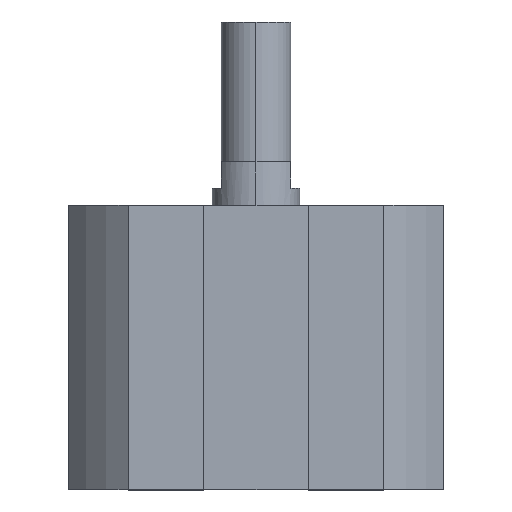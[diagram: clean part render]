
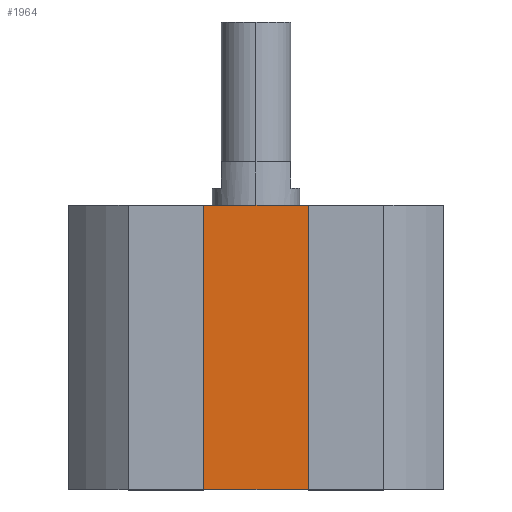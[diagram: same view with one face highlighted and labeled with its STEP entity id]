
A CAD part, top view. The second image highlights one B-rep face of the part: STEP entity #1964.
In plain terms, the highlighted planar face has unit normal (0, 0, 1).
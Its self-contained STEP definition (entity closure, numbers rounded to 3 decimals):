
#38 = PLANE ( 'NONE',  #1638 ) ;
#75 = EDGE_CURVE ( 'NONE', #1057, #2647, #2018, .T. ) ;
#123 = ORIENTED_EDGE ( 'NONE', *, *, #75, .T. ) ;
#248 = ORIENTED_EDGE ( 'NONE', *, *, #639, .F. ) ;
#273 = EDGE_CURVE ( 'NONE', #2647, #885, #514, .T. ) ;
#284 = CARTESIAN_POINT ( 'NONE',  ( 7.7, 0., 14. ) ) ;
#310 = VECTOR ( 'NONE', #1904, 1000. ) ;
#313 = DIRECTION ( 'NONE',  ( 0., 1., 0. ) ) ;
#353 = ORIENTED_EDGE ( 'NONE', *, *, #273, .T. ) ;
#514 = LINE ( 'NONE', #2369, #2016 ) ;
#639 = EDGE_CURVE ( 'NONE', #1483, #885, #2366, .T. ) ;
#649 = CARTESIAN_POINT ( 'NONE',  ( -7.7, 0., 14. ) ) ;
#659 = DIRECTION ( 'NONE',  ( 1., 0., 0. ) ) ;
#674 = DIRECTION ( 'NONE',  ( 0., 0., 1. ) ) ;
#696 = LINE ( 'NONE', #2437, #2517 ) ;
#875 = CARTESIAN_POINT ( 'NONE',  ( 0., 0., 14. ) ) ;
#885 = VERTEX_POINT ( 'NONE', #284 ) ;
#984 = CARTESIAN_POINT ( 'NONE',  ( -7.7, -32.5, 14. ) ) ;
#1008 = CARTESIAN_POINT ( 'NONE',  ( 7.7, -32.5, 14. ) ) ;
#1028 = FACE_OUTER_BOUND ( 'NONE', #2208, .T. ) ;
#1057 = VERTEX_POINT ( 'NONE', #984 ) ;
#1100 = CARTESIAN_POINT ( 'NONE',  ( 0., -32.5, 14. ) ) ;
#1483 = VERTEX_POINT ( 'NONE', #649 ) ;
#1638 = AXIS2_PLACEMENT_3D ( 'NONE', #1100, #674, #1723 ) ;
#1681 = CARTESIAN_POINT ( 'NONE',  ( 0., -32.5, 14. ) ) ;
#1723 = DIRECTION ( 'NONE',  ( 1., 0., 0. ) ) ;
#1795 = ORIENTED_EDGE ( 'NONE', *, *, #2421, .F. ) ;
#1904 = DIRECTION ( 'NONE',  ( 1., 0., 0. ) ) ;
#1963 = DIRECTION ( 'NONE',  ( 0., 1., 0. ) ) ;
#1964 = ADVANCED_FACE ( 'NONE', ( #1028 ), #38, .T. ) ;
#2016 = VECTOR ( 'NONE', #1963, 1000. ) ;
#2018 = LINE ( 'NONE', #1681, #2441 ) ;
#2208 = EDGE_LOOP ( 'NONE', ( #248, #1795, #123, #353 ) ) ;
#2366 = LINE ( 'NONE', #875, #310 ) ;
#2369 = CARTESIAN_POINT ( 'NONE',  ( 7.7, -32.5, 14. ) ) ;
#2421 = EDGE_CURVE ( 'NONE', #1057, #1483, #696, .T. ) ;
#2437 = CARTESIAN_POINT ( 'NONE',  ( -7.7, -32.5, 14. ) ) ;
#2441 = VECTOR ( 'NONE', #659, 1000. ) ;
#2517 = VECTOR ( 'NONE', #313, 1000. ) ;
#2647 = VERTEX_POINT ( 'NONE', #1008 ) ;
